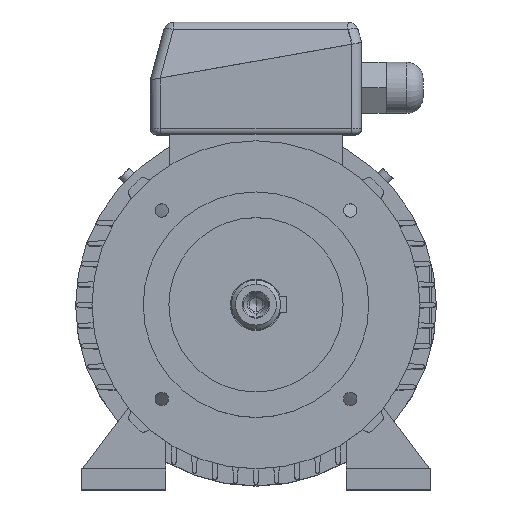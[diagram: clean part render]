
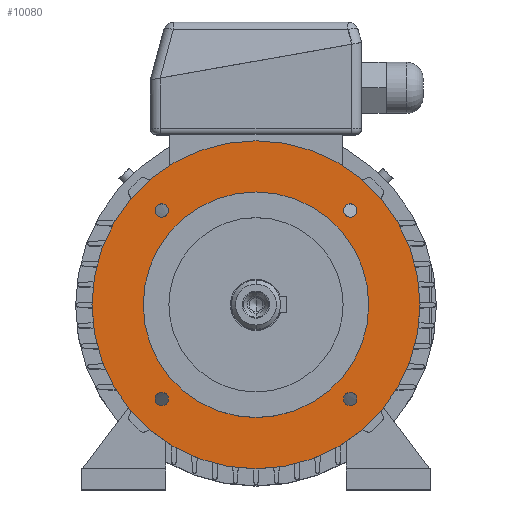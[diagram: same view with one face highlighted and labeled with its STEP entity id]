
A CAD part, top view. The second image highlights one B-rep face of the part: STEP entity #10080.
In plain terms, the highlighted planar face has unit normal (0, 0, 1).
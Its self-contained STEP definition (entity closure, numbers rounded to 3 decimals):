
#120 = FACE_BOUND ( 'NONE', #9889, .T. ) ;
#121 = FACE_BOUND ( 'NONE', #8060, .T. ) ;
#122 = FACE_BOUND ( 'NONE', #6214, .T. ) ;
#127 = FACE_BOUND ( 'NONE', #9620, .T. ) ;
#128 = FACE_BOUND ( 'NONE', #7779, .T. ) ;
#129 = FACE_OUTER_BOUND ( 'NONE', #6174, .T. ) ;
#130 = PLANE ( 'NONE',  #131 ) ;
#131 = AXIS2_PLACEMENT_3D ( 'NONE', #132, #133, #134 ) ;
#132 = CARTESIAN_POINT ( 'NONE',  ( 0., 80., 40. ) ) ;
#133 = DIRECTION ( 'NONE',  ( 0., 0., 1. ) ) ;
#134 = DIRECTION ( 'NONE',  ( 0., -1., 0. ) ) ;
#368 = CIRCLE ( 'NONE', #369, 55. ) ;
#369 = AXIS2_PLACEMENT_3D ( 'NONE', #374, #375, #376 ) ;
#374 = CARTESIAN_POINT ( 'NONE',  ( 0., 0., 40. ) ) ;
#375 = DIRECTION ( 'NONE',  ( 0., 0., -1. ) ) ;
#376 = DIRECTION ( 'NONE',  ( 0., 1., 0. ) ) ;
#431 = VERTEX_POINT ( 'NONE', #3461 ) ;
#1789 = VERTEX_POINT ( 'NONE', #5664 ) ;
#1834 = VERTEX_POINT ( 'NONE', #5751 ) ;
#1892 = EDGE_CURVE ( 'NONE', #1834, #1789, #5871, .T. ) ;
#1915 = VERTEX_POINT ( 'NONE', #5913 ) ;
#1971 = EDGE_CURVE ( 'NONE', #2180, #1915, #6057, .T. ) ;
#2180 = VERTEX_POINT ( 'NONE', #6494 ) ;
#3197 = VERTEX_POINT ( 'NONE', #9358 ) ;
#3198 = VERTEX_POINT ( 'NONE', #9359 ) ;
#3252 = EDGE_CURVE ( 'NONE', #4128, #3197, #9484, .T. ) ;
#3253 = EDGE_CURVE ( 'NONE', #3198, #9801, #9489, .T. ) ;
#3461 = CARTESIAN_POINT ( 'NONE',  ( -49.212, 45.962, 40. ) ) ;
#3551 = VERTEX_POINT ( 'NONE', #9741 ) ;
#3804 = EDGE_CURVE ( 'NONE', #4974, #3551, #9853, .T. ) ;
#4128 = VERTEX_POINT ( 'NONE', #10008 ) ;
#4586 = EDGE_CURVE ( 'NONE', #1789, #1834, #10222, .T. ) ;
#4974 = VERTEX_POINT ( 'NONE', #10406 ) ;
#5199 = ORIENTED_EDGE ( 'NONE', *, *, #4586, .F. ) ;
#5220 = EDGE_CURVE ( 'NONE', #3197, #4128, #10525, .T. ) ;
#5595 = ORIENTED_EDGE ( 'NONE', *, *, #1892, .F. ) ;
#5633 = ORIENTED_EDGE ( 'NONE', *, *, #5220, .F. ) ;
#5664 = CARTESIAN_POINT ( 'NONE',  ( 0., -80., 40. ) ) ;
#5751 = CARTESIAN_POINT ( 'NONE',  ( 0., 80., 40. ) ) ;
#5871 = CIRCLE ( 'NONE', #5872, 80. ) ;
#5872 = AXIS2_PLACEMENT_3D ( 'NONE', #5873, #5874, #5875 ) ;
#5873 = CARTESIAN_POINT ( 'NONE',  ( 0., 0., 40. ) ) ;
#5874 = DIRECTION ( 'NONE',  ( 0., 0., -1. ) ) ;
#5875 = DIRECTION ( 'NONE',  ( 0., 1., 0. ) ) ;
#5913 = CARTESIAN_POINT ( 'NONE',  ( 49.212, 45.962, 40. ) ) ;
#6057 = CIRCLE ( 'NONE', #6058, 3.25 ) ;
#6058 = AXIS2_PLACEMENT_3D ( 'NONE', #6059, #6060, #6061 ) ;
#6059 = CARTESIAN_POINT ( 'NONE',  ( 45.962, 45.962, 40. ) ) ;
#6060 = DIRECTION ( 'NONE',  ( 0., 0., 1. ) ) ;
#6061 = DIRECTION ( 'NONE',  ( 1., 0., 0. ) ) ;
#6174 = EDGE_LOOP ( 'NONE', ( #5595, #5199 ) ) ;
#6214 = EDGE_LOOP ( 'NONE', ( #5633, #9888 ) ) ;
#6440 = ORIENTED_EDGE ( 'NONE', *, *, #10608, .T. ) ;
#6481 = ORIENTED_EDGE ( 'NONE', *, *, #3804, .F. ) ;
#6494 = CARTESIAN_POINT ( 'NONE',  ( 42.712, 45.962, 40. ) ) ;
#7018 = ORIENTED_EDGE ( 'NONE', *, *, #3253, .T. ) ;
#7057 = EDGE_CURVE ( 'NONE', #3551, #4974, #11406, .T. ) ;
#7471 = ORIENTED_EDGE ( 'NONE', *, *, #7057, .F. ) ;
#7779 = EDGE_LOOP ( 'NONE', ( #7018, #6440 ) ) ;
#8059 = ORIENTED_EDGE ( 'NONE', *, *, #1971, .F. ) ;
#8060 = EDGE_LOOP ( 'NONE', ( #7471, #6481 ) ) ;
#8220 = CARTESIAN_POINT ( 'NONE',  ( -42.712, 45.962, 40. ) ) ;
#8324 = ORIENTED_EDGE ( 'NONE', *, *, #12180, .F. ) ;
#8460 = CIRCLE ( 'NONE', #8461, 3.25 ) ;
#8461 = AXIS2_PLACEMENT_3D ( 'NONE', #8462, #8465, #8466 ) ;
#8462 = CARTESIAN_POINT ( 'NONE',  ( -45.962, 45.962, 40. ) ) ;
#8465 = DIRECTION ( 'NONE',  ( 0., 0., 1. ) ) ;
#8466 = DIRECTION ( 'NONE',  ( 1., 0., 0. ) ) ;
#8628 = EDGE_CURVE ( 'NONE', #1915, #2180, #12150, .T. ) ;
#8895 = EDGE_CURVE ( 'NONE', #11936, #431, #12270, .T. ) ;
#9043 = ORIENTED_EDGE ( 'NONE', *, *, #8628, .F. ) ;
#9313 = ORIENTED_EDGE ( 'NONE', *, *, #8895, .F. ) ;
#9358 = CARTESIAN_POINT ( 'NONE',  ( 49.212, -45.962, 40. ) ) ;
#9359 = CARTESIAN_POINT ( 'NONE',  ( 0., 55., 40. ) ) ;
#9484 = CIRCLE ( 'NONE', #9485, 3.25 ) ;
#9485 = AXIS2_PLACEMENT_3D ( 'NONE', #9486, #9487, #9488 ) ;
#9486 = CARTESIAN_POINT ( 'NONE',  ( 45.962, -45.962, 40. ) ) ;
#9487 = DIRECTION ( 'NONE',  ( 0., 0., 1. ) ) ;
#9488 = DIRECTION ( 'NONE',  ( 1., 0., 0. ) ) ;
#9489 = CIRCLE ( 'NONE', #9490, 55. ) ;
#9490 = AXIS2_PLACEMENT_3D ( 'NONE', #9491, #9492, #9493 ) ;
#9491 = CARTESIAN_POINT ( 'NONE',  ( 0., 0., 40. ) ) ;
#9492 = DIRECTION ( 'NONE',  ( 0., 0., -1. ) ) ;
#9493 = DIRECTION ( 'NONE',  ( 0., 1., 0. ) ) ;
#9620 = EDGE_LOOP ( 'NONE', ( #9043, #8059 ) ) ;
#9741 = CARTESIAN_POINT ( 'NONE',  ( -42.712, -45.962, 40. ) ) ;
#9801 = VERTEX_POINT ( 'NONE', #12685 ) ;
#9853 = CIRCLE ( 'NONE', #9854, 3.25 ) ;
#9854 = AXIS2_PLACEMENT_3D ( 'NONE', #9855, #9856, #9857 ) ;
#9855 = CARTESIAN_POINT ( 'NONE',  ( -45.962, -45.962, 40. ) ) ;
#9856 = DIRECTION ( 'NONE',  ( 0., 0., 1. ) ) ;
#9857 = DIRECTION ( 'NONE',  ( 1., 0., 0. ) ) ;
#9888 = ORIENTED_EDGE ( 'NONE', *, *, #3252, .F. ) ;
#9889 = EDGE_LOOP ( 'NONE', ( #9313, #8324 ) ) ;
#10008 = CARTESIAN_POINT ( 'NONE',  ( 42.712, -45.962, 40. ) ) ;
#10080 = ADVANCED_FACE ( 'NONE', ( #120, #121, #122, #127, #128, #129 ), #130, .T. ) ;
#10222 = CIRCLE ( 'NONE', #10223, 80. ) ;
#10223 = AXIS2_PLACEMENT_3D ( 'NONE', #10224, #10225, #10226 ) ;
#10224 = CARTESIAN_POINT ( 'NONE',  ( 0., 0., 40. ) ) ;
#10225 = DIRECTION ( 'NONE',  ( 0., 0., -1. ) ) ;
#10226 = DIRECTION ( 'NONE',  ( 0., 1., 0. ) ) ;
#10406 = CARTESIAN_POINT ( 'NONE',  ( -49.212, -45.962, 40. ) ) ;
#10525 = CIRCLE ( 'NONE', #10526, 3.25 ) ;
#10526 = AXIS2_PLACEMENT_3D ( 'NONE', #10527, #10533, #10534 ) ;
#10527 = CARTESIAN_POINT ( 'NONE',  ( 45.962, -45.962, 40. ) ) ;
#10533 = DIRECTION ( 'NONE',  ( 0., 0., 1. ) ) ;
#10534 = DIRECTION ( 'NONE',  ( 1., 0., 0. ) ) ;
#10608 = EDGE_CURVE ( 'NONE', #9801, #3198, #368, .T. ) ;
#11406 = CIRCLE ( 'NONE', #11407, 3.25 ) ;
#11407 = AXIS2_PLACEMENT_3D ( 'NONE', #11408, #11409, #11410 ) ;
#11408 = CARTESIAN_POINT ( 'NONE',  ( -45.962, -45.962, 40. ) ) ;
#11409 = DIRECTION ( 'NONE',  ( 0., 0., 1. ) ) ;
#11410 = DIRECTION ( 'NONE',  ( 1., 0., 0. ) ) ;
#11936 = VERTEX_POINT ( 'NONE', #8220 ) ;
#12150 = CIRCLE ( 'NONE', #12151, 3.25 ) ;
#12151 = AXIS2_PLACEMENT_3D ( 'NONE', #12152, #12153, #12154 ) ;
#12152 = CARTESIAN_POINT ( 'NONE',  ( 45.962, 45.962, 40. ) ) ;
#12153 = DIRECTION ( 'NONE',  ( 0., 0., 1. ) ) ;
#12154 = DIRECTION ( 'NONE',  ( 1., 0., 0. ) ) ;
#12180 = EDGE_CURVE ( 'NONE', #431, #11936, #8460, .T. ) ;
#12270 = CIRCLE ( 'NONE', #12271, 3.25 ) ;
#12271 = AXIS2_PLACEMENT_3D ( 'NONE', #12272, #12273, #12274 ) ;
#12272 = CARTESIAN_POINT ( 'NONE',  ( -45.962, 45.962, 40. ) ) ;
#12273 = DIRECTION ( 'NONE',  ( 0., 0., 1. ) ) ;
#12274 = DIRECTION ( 'NONE',  ( 1., 0., 0. ) ) ;
#12685 = CARTESIAN_POINT ( 'NONE',  ( 0., -55., 40. ) ) ;
